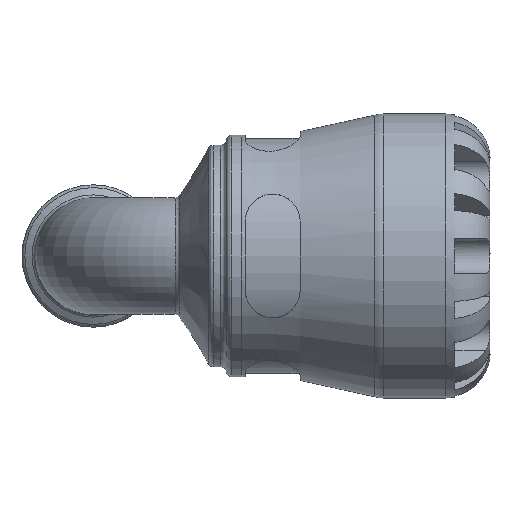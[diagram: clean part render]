
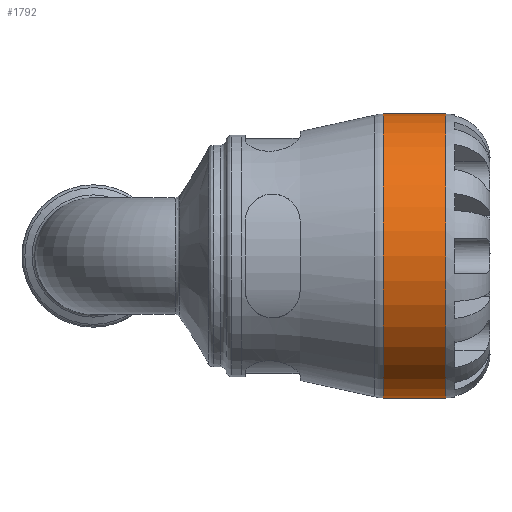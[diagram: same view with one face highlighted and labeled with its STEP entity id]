
A CAD part, front view. The second image highlights one B-rep face of the part: STEP entity #1792.
In plain terms, the highlighted cylindrical face has radius 29 mm (diameter 58 mm), a full revolution.
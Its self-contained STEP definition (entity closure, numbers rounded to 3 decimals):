
#326=CYLINDRICAL_SURFACE('',#1966,29.);
#367=FACE_BOUND('',#552,.T.);
#419=FACE_OUTER_BOUND('',#551,.T.);
#551=EDGE_LOOP('',(#1290));
#552=EDGE_LOOP('',(#1291));
#691=CIRCLE('',#1965,29.);
#692=CIRCLE('',#1967,29.);
#806=VERTEX_POINT('',#3419);
#807=VERTEX_POINT('',#3422);
#988=EDGE_CURVE('',#806,#806,#691,.T.);
#989=EDGE_CURVE('',#807,#807,#692,.T.);
#1290=ORIENTED_EDGE('',*,*,#989,.F.);
#1291=ORIENTED_EDGE('',*,*,#988,.F.);
#1792=ADVANCED_FACE('',(#419,#367),#326,.T.);
#1965=AXIS2_PLACEMENT_3D('',#3420,#2292,#2293);
#1966=AXIS2_PLACEMENT_3D('',#3421,#2294,#2295);
#1967=AXIS2_PLACEMENT_3D('',#3423,#2296,#2297);
#2292=DIRECTION('center_axis',(-1.,0.,0.));
#2293=DIRECTION('ref_axis',(0.,-1.,0.));
#2294=DIRECTION('center_axis',(1.,0.,0.));
#2295=DIRECTION('ref_axis',(0.,1.,0.));
#2296=DIRECTION('center_axis',(1.,0.,0.));
#2297=DIRECTION('ref_axis',(0.,0.,-1.));
#3419=CARTESIAN_POINT('',(59.208,29.,0.));
#3420=CARTESIAN_POINT('Origin',(59.208,0.,0.));
#3421=CARTESIAN_POINT('Origin',(65.16,0.,0.));
#3422=CARTESIAN_POINT('',(72.,29.,0.));
#3423=CARTESIAN_POINT('Origin',(72.,0.,0.));
